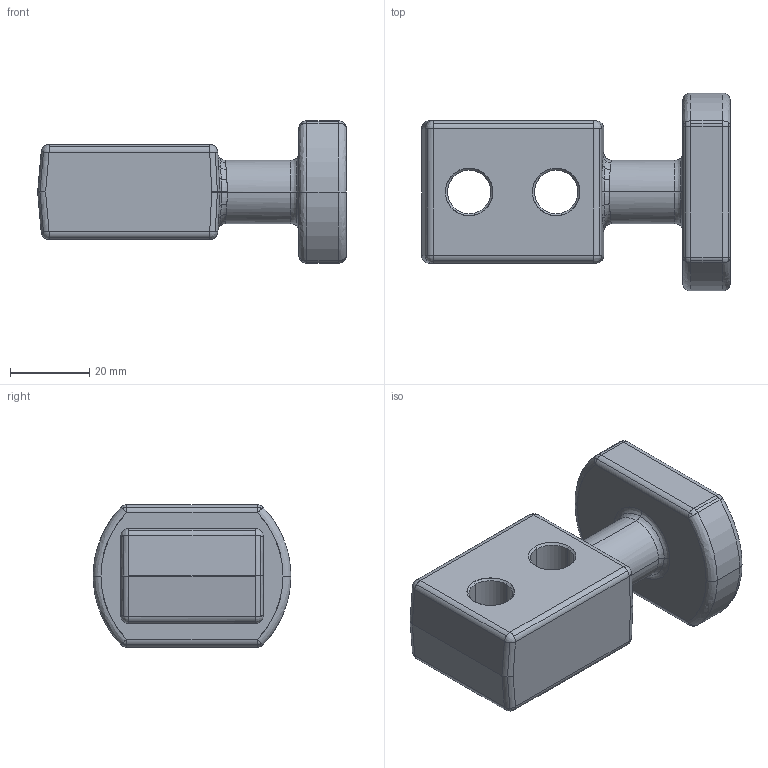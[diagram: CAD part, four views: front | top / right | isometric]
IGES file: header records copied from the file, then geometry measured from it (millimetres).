
Global section: file name: E:\UnigraphicsGraphicData\MISUMI_PRESS-PARTS\IGES\3d_chpl16_03563_r00.igs; native system: NX V5.0; preprocessor: UGS NX IGES V5.0; author: MISUMI; date: 20110105.160233; units: millimetre
Bounding box: 78 x 50 x 36 mm (x, y, z)
Surface area: 13311.7 mm2 (no closed solid volume)
Topology: 0 solids, 0 shells, 172 faces, 834 edges, 816 vertices
Faces by surface type: bspline 172
